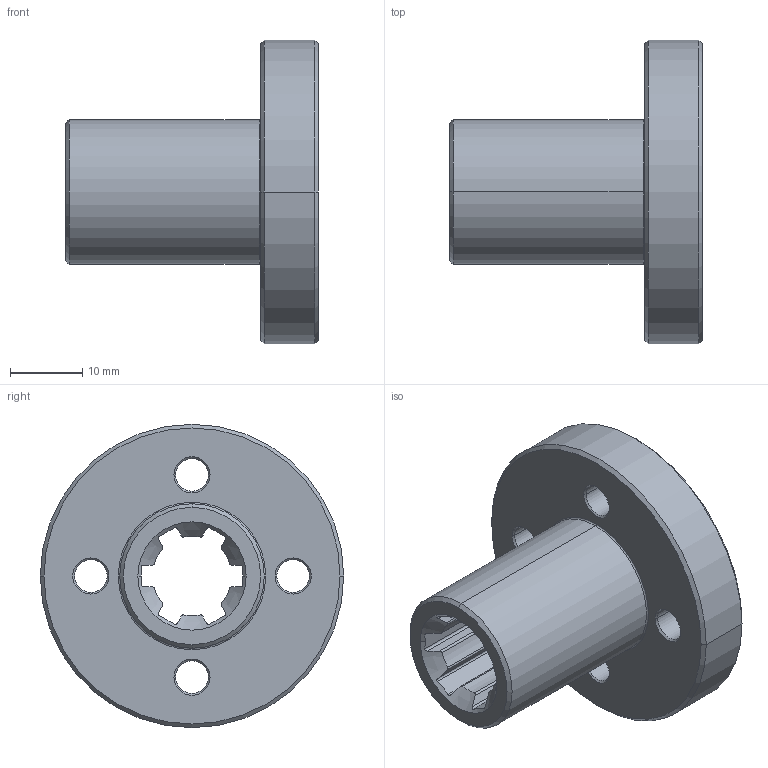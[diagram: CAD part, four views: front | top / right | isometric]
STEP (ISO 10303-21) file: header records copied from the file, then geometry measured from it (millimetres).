
FILE_DESCRIPTION((''),'2;1');
FILE_NAME('396-011-6000_PRT','2024-03-24T',('Brieden'),('ib-brieden'),'PRO/ENGINEER BY PARAMETRIC TECHNOLOGY CORPORATION, 2010160','PRO/ENGINEER BY PARAMETRIC TECHNOLOGY CORPORATION, 2010160','');
FILE_SCHEMA(('AUTOMOTIVE_DESIGN { 1 0 10303 214 1 1 1 1 }'));
Length unit declared in the file: millimetre
Products named in the file (1): 396-011-6000_PRT
Bounding box: 35 x 42 x 42 mm (x, y, z)
Volume: 14036.9 mm3; surface area: 7249 mm2
Topology: 1 solids, 1 shells, 98 faces, 254 edges, 160 vertices
Faces by surface type: cylinder 44, cone 28, plane 22, torus 4
Entity records: 4143 total; most frequent: CARTESIAN_POINT 1011, ORIENTED_EDGE 508, DIRECTION 438, PRESENTATION_STYLE_ASSIGNMENT 255, STYLED_ITEM 255, CURVE_STYLE 254, EDGE_CURVE 254, AXIS2_PLACEMENT_3D 174
